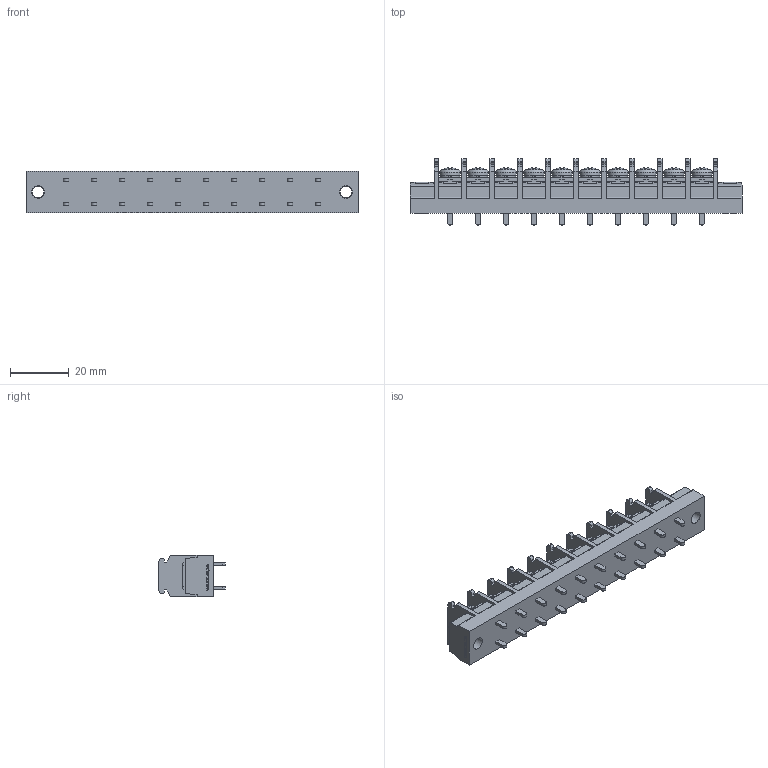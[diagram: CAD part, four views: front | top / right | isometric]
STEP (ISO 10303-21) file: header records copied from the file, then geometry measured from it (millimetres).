
FILE_DESCRIPTION(/* description */ ('Alibre Inc.'),/* implementation_level */ '2;1');
FILE_NAME(/* name */ 'export-07D44A6B-6E74-49DE-9A55-C8657E0E7B2E',/* time_stamp */ '2021-02-13T17:13:43+09:00',/* author */ (''),/* organization */ (''),/* preprocessor_version */ 'ST-DEVELOPER v17',/* originating_system */ 'Alibre',/* authorisation */ '');
FILE_SCHEMA (('CONFIG_CONTROL_DESIGN'));
Length unit declared in the file: millimetre
Bounding box: 112.7 x 22.5 x 14 mm (x, y, z)
Volume: 18386 mm3; surface area: 12427.7 mm2
Topology: 1 solids, 27 shells, 1664 faces, 4660 edges, 3064 vertices
Faces by surface type: plane 1246, cylinder 234, bspline 104, cone 50, torus 20, sphere 10
Full cylindrical faces by diameter (mm): 4 x22, 4.2 x2, 7 x10
Entity records: 50745 total; most frequent: CARTESIAN_POINT 10280, ORIENTED_EDGE 9148, DIRECTION 6692, EDGE_CURVE 4574, VECTOR 3322, LINE 3322, VERTEX_POINT 3042, AXIS2_PLACEMENT_3D 2268
